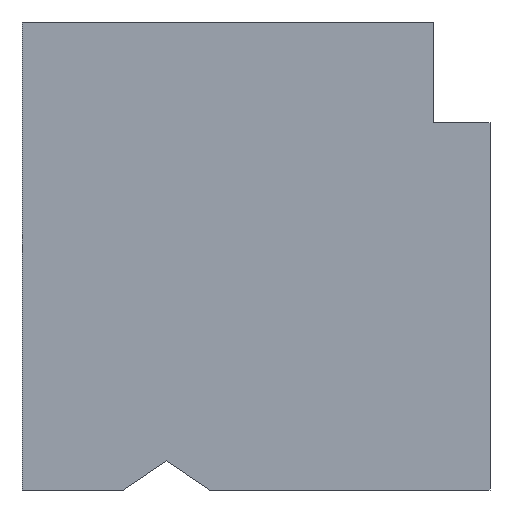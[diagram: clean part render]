
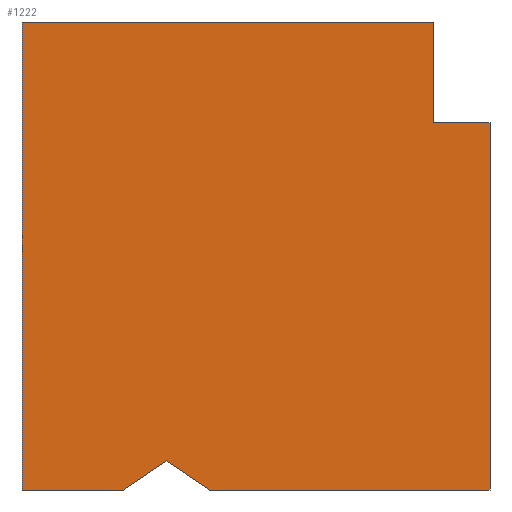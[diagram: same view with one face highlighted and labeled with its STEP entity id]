
A CAD part, left-side view. The second image highlights one B-rep face of the part: STEP entity #1222.
In plain terms, the highlighted planar face has unit normal (-1, 0, 0).
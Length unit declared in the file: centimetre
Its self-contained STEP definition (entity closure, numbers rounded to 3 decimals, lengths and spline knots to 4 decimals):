
#22 = CARTESIAN_POINT ( 'NONE',  ( 0., 121.4338, 784.6916 ) ) ;
#29 = EDGE_CURVE ( 'NONE', #181, #1158, #1149, .T. ) ;
#33 = LINE ( 'NONE', #1294, #278 ) ;
#70 = VERTEX_POINT ( 'NONE', #454 ) ;
#74 = EDGE_CURVE ( 'NONE', #605, #700, #570, .T. ) ;
#92 = DIRECTION ( 'NONE',  ( 0., -1., 0. ) ) ;
#94 = CARTESIAN_POINT ( 'NONE',  ( 0., 0., 1000. ) ) ;
#134 = DIRECTION ( 'NONE',  ( 0., -0.827, 0.562 ) ) ;
#175 = VECTOR ( 'NONE', #820, 100. ) ;
#181 = VERTEX_POINT ( 'NONE', #22 ) ;
#202 = FACE_OUTER_BOUND ( 'NONE', #1405, .T. ) ;
#203 = EDGE_CURVE ( 'NONE', #643, #70, #824, .T. ) ;
#266 = VECTOR ( 'NONE', #460, 100. ) ;
#278 = VECTOR ( 'NONE', #494, 100. ) ;
#290 = ORIENTED_EDGE ( 'NONE', *, *, #309, .T. ) ;
#292 = VECTOR ( 'NONE', #1276, 100. ) ;
#309 = EDGE_CURVE ( 'NONE', #657, #700, #33, .T. ) ;
#315 = LINE ( 'NONE', #918, #380 ) ;
#334 = CARTESIAN_POINT ( 'NONE',  ( 0., 1000., 0. ) ) ;
#352 = CARTESIAN_POINT ( 'NONE',  ( 0., 1000., 1000. ) ) ;
#371 = VECTOR ( 'NONE', #92, 100. ) ;
#380 = VECTOR ( 'NONE', #794, 100. ) ;
#407 = CARTESIAN_POINT ( 'NONE',  ( 0., 1000., 1000. ) ) ;
#426 = CARTESIAN_POINT ( 'NONE',  ( 0., 1000., 1000. ) ) ;
#454 = CARTESIAN_POINT ( 'NONE',  ( 0., 692.143, 62.505 ) ) ;
#459 = LINE ( 'NONE', #923, #292 ) ;
#460 = DIRECTION ( 'NONE',  ( 0., 0., 1. ) ) ;
#476 = VECTOR ( 'NONE', #1353, 100. ) ;
#494 = DIRECTION ( 'NONE',  ( 0., -1., 0. ) ) ;
#497 = CARTESIAN_POINT ( 'NONE',  ( 0., 0., 784.6916 ) ) ;
#500 = CARTESIAN_POINT ( 'NONE',  ( 0., 692.143, 62.505 ) ) ;
#502 = ORIENTED_EDGE ( 'NONE', *, *, #1338, .T. ) ;
#504 = DIRECTION ( 'NONE',  ( 0., 1., 0. ) ) ;
#519 = EDGE_CURVE ( 'NONE', #605, #181, #1305, .T. ) ;
#570 = LINE ( 'NONE', #94, #476 ) ;
#605 = VERTEX_POINT ( 'NONE', #497 ) ;
#619 = CARTESIAN_POINT ( 'NONE',  ( 0., 121.4338, 1000. ) ) ;
#634 = VERTEX_POINT ( 'NONE', #407 ) ;
#643 = VERTEX_POINT ( 'NONE', #669 ) ;
#657 = VERTEX_POINT ( 'NONE', #1456 ) ;
#669 = CARTESIAN_POINT ( 'NONE',  ( 0., 784.1547, 0. ) ) ;
#670 = PLANE ( 'NONE',  #921 ) ;
#677 = ORIENTED_EDGE ( 'NONE', *, *, #1371, .T. ) ;
#684 = VECTOR ( 'NONE', #504, 100. ) ;
#700 = VERTEX_POINT ( 'NONE', #1132 ) ;
#786 = VERTEX_POINT ( 'NONE', #334 ) ;
#794 = DIRECTION ( 'NONE',  ( 0., -1., 0. ) ) ;
#811 = EDGE_CURVE ( 'NONE', #786, #643, #315, .T. ) ;
#820 = DIRECTION ( 'NONE',  ( 0., 0., -1. ) ) ;
#824 = LINE ( 'NONE', #500, #1397 ) ;
#825 = ORIENTED_EDGE ( 'NONE', *, *, #811, .T. ) ;
#918 = CARTESIAN_POINT ( 'NONE',  ( 0., 1000., 0. ) ) ;
#921 = AXIS2_PLACEMENT_3D ( 'NONE', #426, #1370, #1111 ) ;
#923 = CARTESIAN_POINT ( 'NONE',  ( 0., 600.1313, 0. ) ) ;
#998 = ORIENTED_EDGE ( 'NONE', *, *, #203, .T. ) ;
#1041 = ORIENTED_EDGE ( 'NONE', *, *, #74, .F. ) ;
#1102 = LINE ( 'NONE', #1121, #371 ) ;
#1111 = DIRECTION ( 'NONE',  ( 0., 0., -1. ) ) ;
#1121 = CARTESIAN_POINT ( 'NONE',  ( 0., 1000., 1000. ) ) ;
#1132 = CARTESIAN_POINT ( 'NONE',  ( 0., 0., 0. ) ) ;
#1149 = LINE ( 'NONE', #1380, #266 ) ;
#1158 = VERTEX_POINT ( 'NONE', #619 ) ;
#1188 = CARTESIAN_POINT ( 'NONE',  ( 0., 0., 784.6916 ) ) ;
#1222 = ADVANCED_FACE ( 'NONE', ( #202 ), #670, .F. ) ;
#1251 = EDGE_CURVE ( 'NONE', #634, #1158, #1102, .T. ) ;
#1259 = ORIENTED_EDGE ( 'NONE', *, *, #1251, .F. ) ;
#1276 = DIRECTION ( 'NONE',  ( 0., -0.827, -0.562 ) ) ;
#1294 = CARTESIAN_POINT ( 'NONE',  ( 0., 1000., 0. ) ) ;
#1305 = LINE ( 'NONE', #1188, #684 ) ;
#1338 = EDGE_CURVE ( 'NONE', #70, #657, #459, .T. ) ;
#1346 = ORIENTED_EDGE ( 'NONE', *, *, #29, .T. ) ;
#1353 = DIRECTION ( 'NONE',  ( 0., 0., -1. ) ) ;
#1359 = ORIENTED_EDGE ( 'NONE', *, *, #519, .T. ) ;
#1370 = DIRECTION ( 'NONE',  ( 1., 0., 0. ) ) ;
#1371 = EDGE_CURVE ( 'NONE', #634, #786, #1392, .T. ) ;
#1380 = CARTESIAN_POINT ( 'NONE',  ( 0., 121.4338, 784.6916 ) ) ;
#1392 = LINE ( 'NONE', #352, #175 ) ;
#1397 = VECTOR ( 'NONE', #134, 100. ) ;
#1405 = EDGE_LOOP ( 'NONE', ( #998, #502, #290, #1041, #1359, #1346, #1259, #677, #825 ) ) ;
#1456 = CARTESIAN_POINT ( 'NONE',  ( 0., 600.1313, 0. ) ) ;
